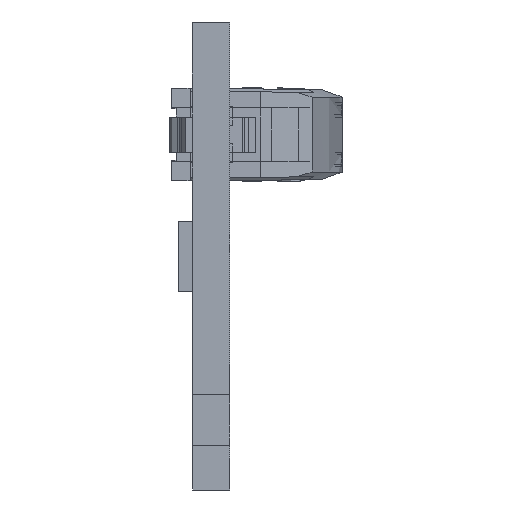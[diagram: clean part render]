
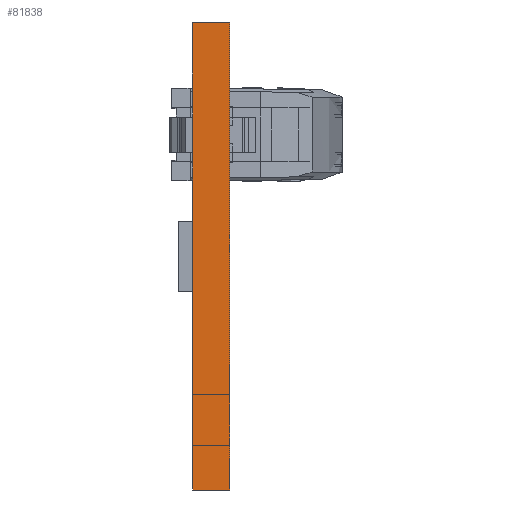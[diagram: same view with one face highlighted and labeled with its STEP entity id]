
A CAD part, left-side view. The second image highlights one B-rep face of the part: STEP entity #81838.
In plain terms, the highlighted planar face has unit normal (-1, 0, 0).
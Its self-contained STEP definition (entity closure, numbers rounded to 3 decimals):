
#218 = EDGE_LOOP ( 'NONE', ( #130808, #118659, #116488, #79687 ) ) ;
#553 = DIRECTION ( 'NONE',  ( 0., 0., -1. ) ) ;
#3869 = VERTEX_POINT ( 'NONE', #104583 ) ;
#5324 = EDGE_CURVE ( 'NONE', #3869, #81125, #131061, .T. ) ;
#5452 = VECTOR ( 'NONE', #54034, 1000. ) ;
#11057 = VERTEX_POINT ( 'NONE', #52863 ) ;
#22542 = DIRECTION ( 'NONE',  ( 1., 0., 0. ) ) ;
#34587 = LINE ( 'NONE', #136897, #94966 ) ;
#35861 = AXIS2_PLACEMENT_3D ( 'NONE', #78156, #22542, #101922 ) ;
#39304 = LINE ( 'NONE', #110537, #5452 ) ;
#41280 = FACE_OUTER_BOUND ( 'NONE', #218, .T. ) ;
#52863 = CARTESIAN_POINT ( 'NONE',  ( 0., -1.6, 10. ) ) ;
#54034 = DIRECTION ( 'NONE',  ( 0., 1., 0. ) ) ;
#56724 = EDGE_CURVE ( 'NONE', #131210, #81125, #39304, .T. ) ;
#61628 = CARTESIAN_POINT ( 'NONE',  ( 0., -1.6, -10. ) ) ;
#66763 = LINE ( 'NONE', #72222, #123380 ) ;
#72222 = CARTESIAN_POINT ( 'NONE',  ( 0., -1.6, 10. ) ) ;
#78156 = CARTESIAN_POINT ( 'NONE',  ( 0., -1.6, 0. ) ) ;
#79147 = PLANE ( 'NONE',  #35861 ) ;
#79687 = ORIENTED_EDGE ( 'NONE', *, *, #125466, .T. ) ;
#81125 = VERTEX_POINT ( 'NONE', #94954 ) ;
#81838 = ADVANCED_FACE ( 'NONE', ( #41280 ), #79147, .F. ) ;
#83648 = DIRECTION ( 'NONE',  ( 0., 1., 0. ) ) ;
#94954 = CARTESIAN_POINT ( 'NONE',  ( 0., 0., -10. ) ) ;
#94966 = VECTOR ( 'NONE', #553, 1000. ) ;
#100979 = VECTOR ( 'NONE', #126612, 1000. ) ;
#101922 = DIRECTION ( 'NONE',  ( 0., 0., -1. ) ) ;
#104583 = CARTESIAN_POINT ( 'NONE',  ( 0., 0., 10. ) ) ;
#110537 = CARTESIAN_POINT ( 'NONE',  ( 0., -1.6, -10. ) ) ;
#116488 = ORIENTED_EDGE ( 'NONE', *, *, #141664, .F. ) ;
#118659 = ORIENTED_EDGE ( 'NONE', *, *, #56724, .F. ) ;
#123380 = VECTOR ( 'NONE', #83648, 1000. ) ;
#125466 = EDGE_CURVE ( 'NONE', #11057, #3869, #66763, .T. ) ;
#126612 = DIRECTION ( 'NONE',  ( 0., 0., -1. ) ) ;
#130808 = ORIENTED_EDGE ( 'NONE', *, *, #5324, .T. ) ;
#131061 = LINE ( 'NONE', #138036, #100979 ) ;
#131210 = VERTEX_POINT ( 'NONE', #61628 ) ;
#136897 = CARTESIAN_POINT ( 'NONE',  ( 0., -1.6, 0. ) ) ;
#138036 = CARTESIAN_POINT ( 'NONE',  ( 0., 0., 0. ) ) ;
#141664 = EDGE_CURVE ( 'NONE', #11057, #131210, #34587, .T. ) ;
